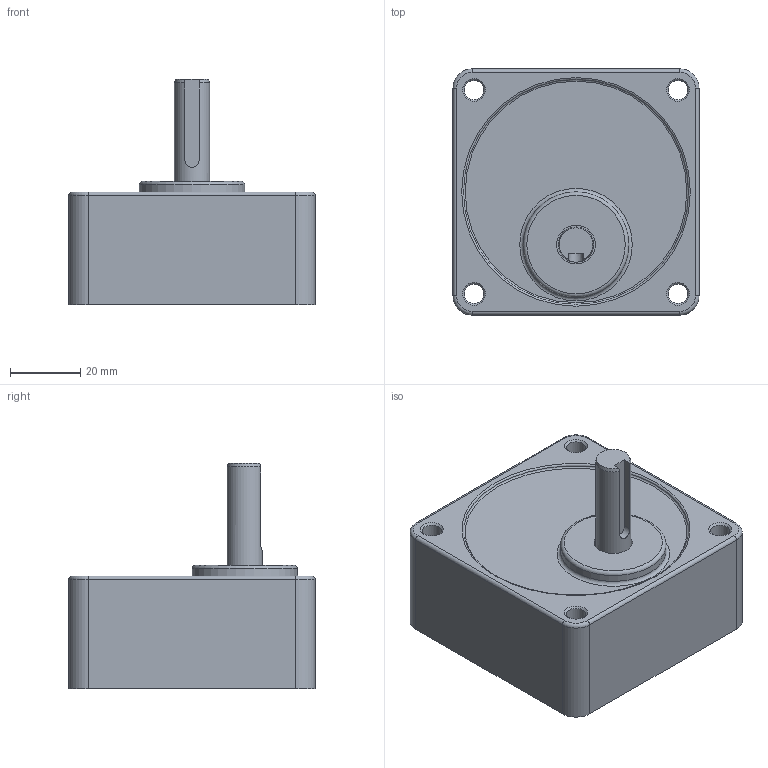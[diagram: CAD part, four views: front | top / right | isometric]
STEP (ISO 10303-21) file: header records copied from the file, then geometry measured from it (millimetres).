
FILE_DESCRIPTION((''),'2;1');
FILE_NAME('D:\STP파일\GEAR HEAD\15W\S7KA3~18.stp','2013-05-20T19:08:56',('leebh'),(''),'Autodesk Inventor 2011','Autodesk Inventor 2011','');
FILE_SCHEMA(('AUTOMOTIVE_DESIGN { 1 0 10303 214 1 1 1 1 }'));
Length unit declared in the file: millimetre
Products named in the file (1): S9I90G-T1
Bounding box: 70 x 70 x 64 mm (x, y, z)
Volume: 137823.9 mm3; surface area: 23281.7 mm2
Topology: 1 solids, 1 shells, 46 faces, 100 edges, 62 vertices
Faces by surface type: cylinder 18, plane 15, torus 8, cone 5
Full cylindrical faces by diameter (mm): 5.5 x4, 7 x1, 10 x1, 11 x1, 30 x1, 64 x1
Entity records: 1221 total; most frequent: DIRECTION 221, CARTESIAN_POINT 212, ORIENTED_EDGE 164, AXIS2_PLACEMENT_3D 96, EDGE_CURVE 82, EDGE_LOOP 77, VERTEX_POINT 61, CIRCLE 49
